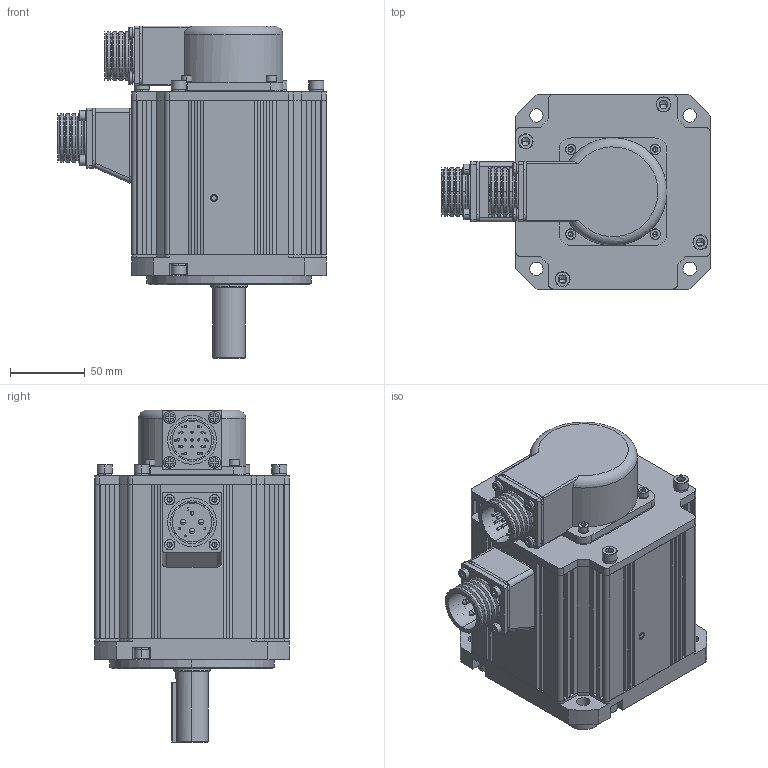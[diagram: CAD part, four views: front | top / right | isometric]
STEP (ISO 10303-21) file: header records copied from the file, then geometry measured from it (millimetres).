
FILE_DESCRIPTION((''),'2;1');
FILE_NAME('SV-MH13-0R8B-X-XA0-1000_ASM_ASM','2019-12-11T',('JWDQ'),(''),'CREO PARAMETRIC BY PTC INC, 2014050','CREO PARAMETRIC BY PTC INC, 2014050','');
FILE_SCHEMA(('CONFIG_CONTROL_DESIGN'));
Products named in the file (28): SV130PT-JK_2; 046770000100_1; 80750004_1; 78400020_1; GBT93-4_1; GBT7R1-4X35_1; 513704090100_1; S-YD28-4_ASM_1_ASM; SV130PT-DZ_ASM_2_ASM; SV130PT-ZHOU_2_AF0; SV130PT-HG_1; SV130DGL-HG_ASM_1_ASM; SV130PT-ZHUANZ_ASM_2_AF0_ASM; 80100007_1; 730030000200_1; SV130-QG_ASM_1_ASM; GBT1095-6X6-41_2; 82340004_1; 513715090100_1; 78400019_1; GBT70R1-4X12_1; M4X16_1; TS5214_ASM_1_ASM; GBT93-6_1; GBT7R1-M6X16_1; GBT119R1-5X8_1; SV130PT_ASM_3_AF0_ASM; SV-MH13-0R8B-X-XA0-1000_ASM_ASM
Assembly tree (61 placements, depth 5):
  SV-MH13-0R8B-X-XA0-1000_ASM_ASM
    SV130PT_ASM_3_AF0_ASM
      SV130PT-DZ_ASM_2_ASM
        SV130PT-JK_2
        S-YD28-4_ASM_1_ASM
          046770000100_1
          80750004_1
          78400020_1
          GBT93-4_1  x4
          GBT7R1-4X35_1  x4
          513704090100_1
      SV130PT-ZHUANZ_ASM_2_AF0_ASM
        SV130PT-ZHOU_2_AF0
        SV130DGL-HG_ASM_1_ASM
          SV130PT-HG_1
      SV130-QG_ASM_1_ASM
        80100007_1
        730030000200_1
      GBT1095-6X6-41_2
      TS5214_ASM_1_ASM
        82340004_1
        046770000100_1
        513715090100_1
        78400019_1
        GBT93-4_1  x8
        GBT70R1-4X12_1  x4
        M4X16_1  x4
      GBT93-6_1  x7
      GBT7R1-M6X16_1  x8
      GBT119R1-5X8_1
Bounding box: 179.5 x 130 x 222 mm (x, y, z)
Volume: 846832.2 mm3; surface area: 351751.8 mm2
Topology: 54 solids, 71 shells, 3165 faces, 8262 edges, 5355 vertices
Faces by surface type: plane 1880, cylinder 765, cone 365, torus 102, bspline 27, sphere 26
Entity records: 98419 total; most frequent: CARTESIAN_POINT 16172, DIRECTION 13734, ORIENTED_EDGE 13508, EDGE_CURVE 6762, VECTOR 4684, LINE 4684, AXIS2_PLACEMENT_3D 4525, VERTEX_POINT 4483
